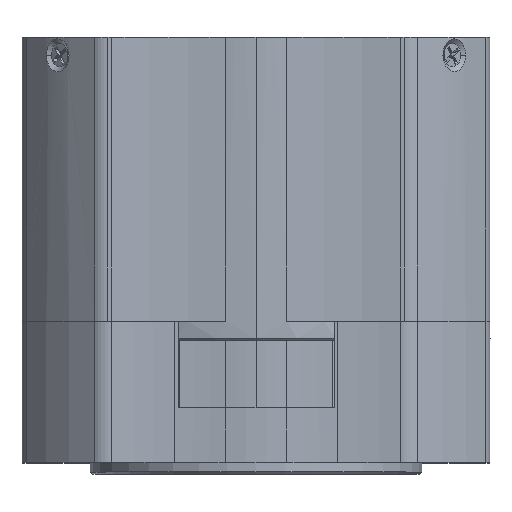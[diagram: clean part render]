
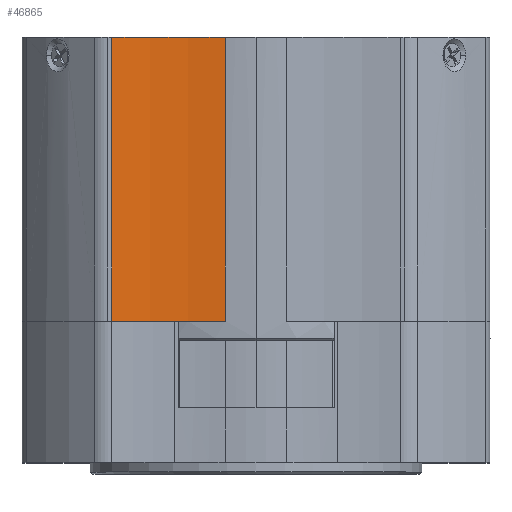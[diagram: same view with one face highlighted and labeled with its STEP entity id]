
A CAD part, top view. The second image highlights one B-rep face of the part: STEP entity #46865.
In plain terms, the highlighted cylindrical face has radius 50 mm (diameter 100 mm), a partial arc.
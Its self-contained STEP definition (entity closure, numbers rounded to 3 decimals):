
#171 = VERTEX_POINT ( 'NONE', #113617 ) ;
#5626 = EDGE_CURVE ( 'NONE', #70918, #171, #36602, .T. ) ;
#11140 = VERTEX_POINT ( 'NONE', #57094 ) ;
#26991 = AXIS2_PLACEMENT_3D ( 'NONE', #34044, #108628, #43693 ) ;
#27432 = CARTESIAN_POINT ( 'NONE',  ( -18.494, 36.4, 29.96 ) ) ;
#28994 = AXIS2_PLACEMENT_3D ( 'NONE', #117478, #82042, #63969 ) ;
#30261 = DIRECTION ( 'NONE',  ( 0., 0., 1. ) ) ;
#30966 = DIRECTION ( 'NONE',  ( 0., 1., 0. ) ) ;
#34044 = CARTESIAN_POINT ( 'NONE',  ( -10.47, -2.5, 79.312 ) ) ;
#36602 = CIRCLE ( 'NONE', #46255, 50. ) ;
#39968 = ORIENTED_EDGE ( 'NONE', *, *, #5626, .T. ) ;
#43693 = DIRECTION ( 'NONE',  ( 0., 0., 1. ) ) ;
#45519 = VECTOR ( 'NONE', #52313, 1000. ) ;
#46255 = AXIS2_PLACEMENT_3D ( 'NONE', #47764, #66448, #30261 ) ;
#46865 = ADVANCED_FACE ( 'NONE', ( #69621 ), #115876, .F. ) ;
#47764 = CARTESIAN_POINT ( 'NONE',  ( -10.47, 0., 79.312 ) ) ;
#51732 = LINE ( 'NONE', #70400, #45519 ) ;
#52313 = DIRECTION ( 'NONE',  ( 0., 1., 0. ) ) ;
#56003 = EDGE_CURVE ( 'NONE', #171, #11140, #51732, .T. ) ;
#57094 = CARTESIAN_POINT ( 'NONE',  ( -3.926, 36.4, 29.742 ) ) ;
#58699 = CARTESIAN_POINT ( 'NONE',  ( -18.494, -2.5, 29.96 ) ) ;
#58785 = ORIENTED_EDGE ( 'NONE', *, *, #56003, .T. ) ;
#59288 = LINE ( 'NONE', #58699, #113596 ) ;
#62664 = EDGE_LOOP ( 'NONE', ( #39968, #58785, #76785, #75984 ) ) ;
#63969 = DIRECTION ( 'NONE',  ( 0., 0., 1. ) ) ;
#66448 = DIRECTION ( 'NONE',  ( 0., -1., 0. ) ) ;
#69621 = FACE_OUTER_BOUND ( 'NONE', #62664, .T. ) ;
#70400 = CARTESIAN_POINT ( 'NONE',  ( -3.926, -2.5, 29.742 ) ) ;
#70918 = VERTEX_POINT ( 'NONE', #112979 ) ;
#75984 = ORIENTED_EDGE ( 'NONE', *, *, #92769, .F. ) ;
#76785 = ORIENTED_EDGE ( 'NONE', *, *, #111876, .F. ) ;
#82042 = DIRECTION ( 'NONE',  ( 0., -1., 0. ) ) ;
#92769 = EDGE_CURVE ( 'NONE', #70918, #115875, #59288, .T. ) ;
#108628 = DIRECTION ( 'NONE',  ( 0., 1., 0. ) ) ;
#111560 = CIRCLE ( 'NONE', #28994, 50. ) ;
#111876 = EDGE_CURVE ( 'NONE', #115875, #11140, #111560, .T. ) ;
#112979 = CARTESIAN_POINT ( 'NONE',  ( -18.494, 0., 29.96 ) ) ;
#113596 = VECTOR ( 'NONE', #30966, 1000. ) ;
#113617 = CARTESIAN_POINT ( 'NONE',  ( -3.926, 0., 29.742 ) ) ;
#115875 = VERTEX_POINT ( 'NONE', #27432 ) ;
#115876 = CYLINDRICAL_SURFACE ( 'NONE', #26991, 50. ) ;
#117478 = CARTESIAN_POINT ( 'NONE',  ( -10.47, 36.4, 79.312 ) ) ;
